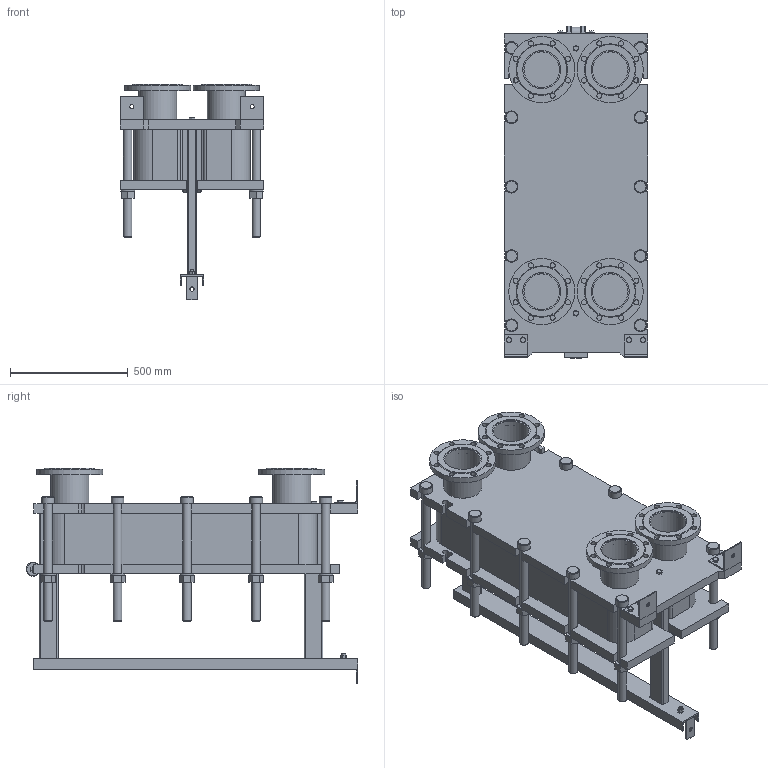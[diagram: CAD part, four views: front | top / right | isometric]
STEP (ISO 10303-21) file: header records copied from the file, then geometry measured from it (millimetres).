
FILE_DESCRIPTION(/* description */ (''),/* implementation_level */ '2;1');
FILE_NAME(/* name */ 'C:\Users\zhuro\Desktop\ENCO\TO\ЭН-041\ЭН-0,5-041-63-1.stp',/* time_stamp */ '2022-06-06T10:54:24+03:00',/* author */ ('zhuro'),/* organization */ (''),/* preprocessor_version */ 'ST-DEVELOPER v18.1',/* originating_system */ 'Autodesk Inventor 2022',/* authorisation */ '');
FILE_SCHEMA (('AUTOMOTIVE_DESIGN { 1 0 10303 214 3 1 1 }'));
Length unit declared in the file: millimetre
Products named in the file (1): ЭН-0,5-041-63-1
Bounding box: 610 x 1406.5 x 912.5 mm (x, y, z)
Volume: 200118809.8 mm3; surface area: 8208691.5 mm2
Topology: 52 solids, 52 shells, 711 faces, 1696 edges, 1094 vertices
Faces by surface type: plane 487, cylinder 177, cone 41, torus 6
Full cylindrical faces by diameter (mm): 8 x4, 10 x2, 16 x8, 18 x3, 22 x32, 36 x24, 50 x1, 54 x10, 60 x12, 151 x4, 161 x8, 280 x4
Entity records: 22667 total; most frequent: CARTESIAN_POINT 5230, DIRECTION 3644, ORIENTED_EDGE 3392, EDGE_CURVE 1696, AXIS2_PLACEMENT_3D 1272, LINE 1100, VECTOR 1100, VERTEX_POINT 1094
